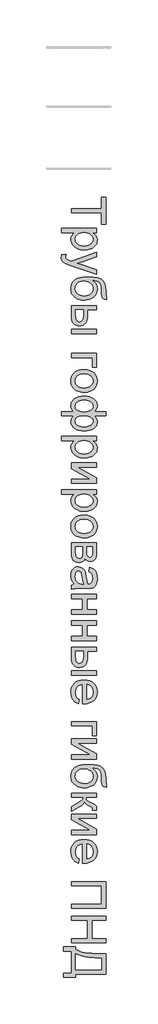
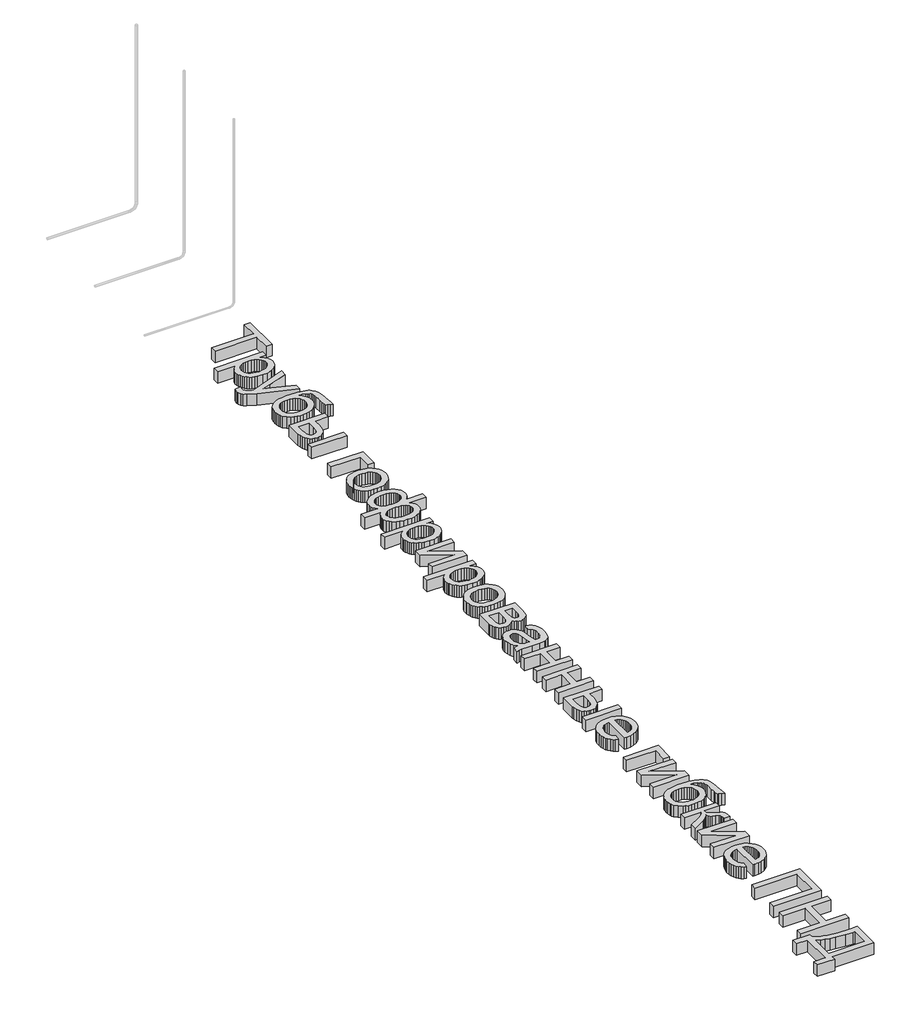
# One storey, part 29 of 33: 1 proxy.
"""IFC4 building model written with IfcOpenShell, lengths in millimetres."""

from ifc_helpers import new_model, si_unit, origin, origin_with_axes, place, context, project, spatial, polyline, outline, extrude, element, save

model = new_model("IFC4")

# Units and contexts
model_context = context("Model", 3, world=origin())
ifc_project = project(units=[si_unit("LENGTHUNIT", "METRE", prefix="MILLI")], contexts=[model_context])

# Site, building, storey
site = spatial("IfcSite", under=ifc_project)
building = spatial("IfcBuilding", under=site)
storey = spatial("IfcBuildingStorey", under=building, Name="Уровень 1", Elevation=0.0)

# Proxy
placement = place(None, origin())
element("IfcBuildingElementProxy", 1, Name="Надпись на модели 1", ObjectType="Надпись на модели 1", at=placement, inside=storey, context=model_context, shape_type="SweptSolid", body=[
    extrude(outline(polyline([(83124.4625724, -714.6440607), (83641.3856493, -714.6440607), (83641.3856493, -520.7979069), (83715.2318032, -520.7979069), (83715.2318032, -982.3363684), (83641.3856493, -982.3363684), (83641.3856493, -788.4902146), (83124.4625724, -788.4902146), (83124.4625724, -714.6440607)])), origin_with_axes(), (0.0, 0.0, 1.0), 150.0),
    extrude(outline(polyline([(82958.3087262, -1056.1825223), (83558.3087262, -1056.1825223), (83558.3087262, -1130.0286761), (83485.9048801, -1130.0286761), (83521.6200243, -1154.1152146), (83547.1308416, -1181.0863684), (83562.437332, -1212.5286761), (83567.5394955, -1250.0286761), (83565.7546397, -1275.7828829), (83560.4000724, -1299.96858), (83551.4757936, -1322.5857675), (83538.9818032, -1343.6344454), (83523.2426205, -1362.6548781), (83504.5827647, -1379.18733), (83483.0022359, -1393.2318011), (83458.5010339, -1404.7882915), (83404.0899762, -1420.2570415), (83344.702957, -1425.4132915), (83281.5479089, -1419.5899742), (83252.4718873, -1412.3108276), (83225.0635339, -1402.1200223), (83200.0394955, -1389.1572819), (83178.1164186, -1373.56233), (83159.2943032, -1355.3351665), (83143.5731493, -1334.4757915), (83131.1738104, -1312.007342), (83122.3171397, -1288.952955), (83117.0031373, -1265.3126305), (83115.2318032, -1241.0863684), (83119.9733897, -1207.1380511), (83134.1981493, -1176.8315607), (83155.6705051, -1150.8880511), (83182.1548801, -1130.0286761), (82958.3087262, -1130.0286761), (82958.3087262, -1056.1825223)]), holes=[polyline([(83337.9241109, -1130.0286761), (83302.3351686, -1132.0253708), (83271.7221878, -1138.015455), (83246.0851686, -1147.9989285), (83225.4241109, -1161.9757915), (83209.5226686, -1178.8012122), (83198.1644955, -1197.3303588), (83191.3495916, -1217.5632314), (83189.077957, -1239.49983), (83191.4307214, -1261.7519333), (83198.4890147, -1282.3543973), (83210.2528368, -1301.3072218), (83226.7221878, -1318.6104069), (83248.1314426, -1333.0289766), (83274.7149762, -1343.327955), (83306.4727887, -1349.507342), (83343.4048801, -1351.5671377), (83378.687332, -1349.5569213), (83409.2462262, -1343.5262723), (83435.0815628, -1333.4751906), (83456.1933416, -1319.4036761), (83472.5995916, -1302.5376906), (83484.3183416, -1284.1031954), (83491.3495916, -1264.1001906), (83493.6933416, -1242.5286761), (83491.2008537, -1221.0247699), (83483.7233897, -1200.7918973), (83471.2609498, -1181.8300583), (83453.8135339, -1164.1392531), (83431.6155171, -1149.2158756), (83404.9012743, -1138.5563204), (83373.6708056, -1132.1605872), (83337.9241109, -1130.0286761)])]), origin_with_axes(), (0.0, 0.0, 1.0), 150.0),
    extrude(outline(polyline([(82958.3087262, -1508.4902146), (83029.4144955, -1499.2594454), (83022.9241109, -1536.7594454), (83024.9613705, -1556.4830031), (83031.0731493, -1571.8075223), (83040.8267551, -1583.7426184), (83053.7894955, -1593.2979069), (83108.1644955, -1613.4902146), (83126.0491109, -1619.2594454), (83558.3087262, -1462.3363684), (83558.3087262, -1540.2209838), (83317.4433416, -1623.4421377), (83221.0971878, -1652.4325223), (83306.1933416, -1681.4229069), (83558.3087262, -1766.9517531), (83558.3087262, -1844.2594454), (83114.077957, -1693.24983), (83017.7318032, -1654.0190607), (82986.9745916, -1633.9349261), (82965.6644955, -1611.1825223), (82953.2245916, -1584.7522338), (82949.077957, -1553.6344454), (82951.3856493, -1532.2522338), (82958.3087262, -1508.4902146)])), origin_with_axes(), (0.0, 0.0, 1.0), 150.0),
    extrude(outline(polyline([(83724.4625724, -2210.0286761), (83724.4625724, -2274.6440607), (83689.3604089, -2267.6488684), (83666.8423801, -2255.6055992), (83653.5190628, -2238.9108877), (83646.0010339, -2217.9613684), (83642.5394955, -2183.8147338), (83641.3856493, -2127.5286761), (83637.1308416, -2052.4385319), (83631.812332, -2025.5349862), (83624.3664186, -2005.7257915), (83614.5767551, -1990.608604), (83602.2269955, -1977.78108), (83587.3171397, -1967.2432194), (83569.8471878, -1958.9950223), (83526.9745916, -1947.9433396), (83473.3568032, -1943.2017531), (83514.6068032, -1972.8952627), (83544.0298801, -2007.1680992), (83561.6620916, -2046.0563204), (83567.5394955, -2089.5959838), (83563.8030171, -2129.827354), (83552.593582, -2166.4349261), (83533.9111902, -2199.4187002), (83507.7558416, -2228.7786761), (83475.227296, -2252.8832434), (83437.4253128, -2270.1007915), (83394.3498921, -2280.4313204), (83346.0010339, -2283.87483), (83309.0148561, -2282.1665968), (83275.5082455, -2277.0418973), (83245.4812022, -2268.5007314), (83218.9337262, -2256.5430992), (83174.9613705, -2226.6693011), (83142.2750724, -2191.7113684), (83130.4436421, -2171.2666569), (83121.9926205, -2147.4325223), (83116.9220075, -2120.2089646), (83115.2318032, -2089.5959838), (83117.4087863, -2054.1828228), (83123.9397359, -2022.9433396), (83134.8246517, -1995.8775343), (83150.0635339, -1972.9854069), (83168.6963464, -1953.3925583), (83189.7630532, -1936.2245896), (83213.2636541, -1921.4815006), (83239.1981493, -1909.1632915), (83271.3841469, -1899.4457434), (83313.6392551, -1892.5046377), (83365.9634738, -1888.3399742), (83428.3568032, -1886.9517531), (83506.1107094, -1890.4538564), (83570.0455051, -1900.9601665), (83620.1611902, -1918.4706833), (83640.0368663, -1929.8525193), (83656.4577647, -1942.9854069), (83682.1714065, -1974.7657555), (83700.5382936, -2014.0731473), (83711.5584258, -2060.9075824), (83715.2318032, -2115.2690607), (83716.890457, -2197.4805992), (83719.6128128, -2205.5214646), (83724.4625724, -2210.0286761)]), holes=[polyline([(83348.3087262, -2210.0286761), (83378.8090267, -2208.0274742), (83406.4156974, -2202.0238684), (83431.1287383, -2192.0178588), (83452.9481493, -2178.0094454), (83470.774171, -2160.359205), (83483.5070436, -2139.4277146), (83491.1467671, -2115.2149742), (83493.6933416, -2087.7209838), (83491.0025363, -2059.0280752), (83482.9301205, -2033.8147338), (83469.476094, -2012.0809598), (83450.640457, -1993.8267531), (83427.3066229, -1979.3766329), (83400.3580051, -1969.0551184), (83369.7946037, -1962.8622098), (83335.6164186, -1960.7979069), (83302.1503729, -1963.0785559), (83272.8580051, -1969.9205031), (83247.7393152, -1981.3237482), (83226.7943032, -1997.2882915), (83210.2934017, -2016.5971857), (83198.5070436, -2038.0334838), (83191.4352287, -2061.5971857), (83189.077957, -2087.2882915), (83191.80482, -2113.3309598), (83199.9854089, -2136.7955031), (83213.6197238, -2157.6819213), (83232.7077647, -2175.9902146), (83256.2940027, -2190.8820415), (83283.4229089, -2201.5190607), (83314.0944835, -2207.9012723), (83348.3087262, -2210.0286761)])]), origin_with_axes(), (0.0, 0.0, 1.0), 150.0),
    extrude(outline(polyline([(83558.3087262, -2376.1825223), (83558.3087262, -2450.0286761), (83401.3856493, -2450.0286761), (83401.3856493, -2541.3267531), (83399.0734498, -2583.3384718), (83392.1368512, -2620.2390127), (83380.5758537, -2652.0283756), (83364.390457, -2678.7065607), (83344.1395556, -2699.8138324), (83320.3820436, -2714.890455), (83293.117921, -2723.9364285), (83262.3471878, -2726.9517531), (83234.8937623, -2724.4232074), (83209.5046397, -2716.8375704), (83186.17982, -2704.194842), (83164.9193032, -2686.4950223), (83147.2194835, -2663.242318), (83134.5767551, -2633.9409357), (83126.9911181, -2598.5908756), (83124.4625724, -2557.1921377), (83124.4625724, -2376.1825223), (83558.3087262, -2376.1825223)]), holes=[polyline([(83198.3087262, -2450.0286761), (83198.3087262, -2525.8940607), (83202.1849282, -2584.7041569), (83207.0301806, -2606.7263925), (83213.8135339, -2623.8267531), (83222.6521758, -2636.6362482), (83233.6632936, -2645.7858877), (83246.8468873, -2651.2756713), (83262.202957, -2653.1055992), (83286.3255532, -2647.6789165), (83307.6356493, -2631.3988684), (83316.343582, -2617.2687603), (83322.5635339, -2596.5851665), (83327.5394955, -2535.5575223), (83327.5394955, -2450.0286761), (83198.3087262, -2450.0286761)])]), origin_with_axes(), (0.0, 0.0, 1.0), 150.0),
    extrude(outline(polyline([(83558.3087262, -2782.3363684), (83558.3087262, -2856.1825223), (83124.4625724, -2856.1825223), (83124.4625724, -2782.3363684), (83558.3087262, -2782.3363684)])), origin_with_axes(), (0.0, 0.0, 1.0), 150.0),
    extrude(outline(polyline([(83558.3087262, -3197.7209838), (83558.3087262, -3437.7209838), (83484.4625724, -3437.7209838), (83484.4625724, -3271.5671377), (83124.4625724, -3271.5671377), (83124.4625724, -3197.7209838), (83558.3087262, -3197.7209838)])), origin_with_axes(), (0.0, 0.0, 1.0), 150.0),
    extrude(outline(polyline([(83341.3856493, -3474.6440607), (83397.5725484, -3478.6374502), (83445.9890147, -3490.6176184), (83486.6350484, -3510.5845656), (83519.5106493, -3538.5382915), (83540.5232695, -3566.6813204), (83555.5322839, -3597.7450223), (83564.5376926, -3631.7293973), (83567.5394955, -3668.6344454), (83563.8841469, -3709.3751305), (83552.9181012, -3746.2125704), (83534.6413585, -3779.1467651), (83509.0539186, -3808.1777146), (83477.0211662, -3831.8721256), (83439.4084859, -3848.796705), (83396.2158777, -3858.9514526), (83347.4433416, -3862.3363684), (83307.9150964, -3860.8399742), (83272.8399762, -3856.3507915), (83242.2179811, -3848.8688204), (83216.0491109, -3838.3940607), (83193.445445, -3825.0572218), (83173.5190628, -3808.9890127), (83156.2699642, -3790.1894333), (83141.6981493, -3768.6584838), (83130.1191229, -3745.2345055), (83121.8483897, -3720.7558396), (83116.8859498, -3695.2224862), (83115.2318032, -3668.6344454), (83118.8736301, -3627.2988083), (83129.7991109, -3590.1188204), (83148.0082455, -3557.0944814), (83173.5010339, -3528.2257915), (83205.8447839, -3504.7837843), (83244.6068032, -3488.0394934), (83289.7870916, -3477.9929189), (83341.3856493, -3474.6440607)]), holes=[polyline([(83341.5298801, -3548.4902146), (83305.71107, -3550.6266329), (83274.6969474, -3557.0358877), (83248.4875123, -3567.717979), (83227.0827647, -3582.6729069), (83210.4556613, -3600.8640127), (83198.5791589, -3621.2546377), (83191.4532575, -3643.8447819), (83189.077957, -3668.6344454), (83191.4667791, -3693.2979069), (83198.6332455, -3715.7979069), (83210.5773561, -3736.1344454), (83227.2991109, -3754.3075223), (83248.9156974, -3769.2624502), (83275.5443032, -3779.9445415), (83307.1849282, -3786.3537963), (83343.8375724, -3788.4902146), (83378.5205652, -3786.3402747), (83408.7233897, -3779.890455), (83434.446046, -3769.1407555), (83455.6885339, -3754.0911761), (83472.3156373, -3735.850491), (83484.1921397, -3715.5274742), (83491.3180412, -3693.1221256), (83493.6933416, -3668.6344454), (83491.3270556, -3643.8447819), (83484.2281974, -3621.2546377), (83472.3967671, -3600.8640127), (83455.8327647, -3582.6729069), (83434.4911181, -3567.717979), (83408.3267551, -3557.0358877), (83377.3396758, -3550.6266329), (83341.5298801, -3548.4902146)])]), origin_with_axes(), (0.0, 0.0, 1.0), 150.0),
    extrude(outline(polyline([(83715.2318032, -4194.6440607), (83715.2318032, -4268.4902146), (83516.6260339, -4268.4902146), (83539.0358897, -4290.9000704), (83554.9193032, -4315.43733), (83564.3844474, -4341.9938204), (83567.5394955, -4370.4613684), (83563.5280772, -4404.648568), (83551.4938224, -4435.0947819), (83531.4367311, -4461.8000103), (83503.3568032, -4484.7642531), (83469.1921397, -4503.2212843), (83430.8808416, -4516.4048781), (83388.4229089, -4524.3150343), (83341.8183416, -4526.9517531), (83293.4875123, -4524.1122098), (83250.0334859, -4515.59358), (83211.4562623, -4501.3958636), (83177.7558416, -4481.5190607), (83150.4015748, -4457.4235079), (83130.8628128, -4430.5695415), (83119.1395556, -4400.9571617), (83115.2318032, -4368.5863684), (83117.0346878, -4346.1945415), (83122.4433416, -4323.4421377), (83135.8928609, -4298.2378107), (83161.8183416, -4268.4902146), (82958.3087262, -4268.4902146), (82958.3087262, -4194.6440607), (83161.8183416, -4194.6440607), (83141.4818032, -4172.1801184), (83126.9144955, -4147.4805992), (83118.1524762, -4120.6176184), (83115.2318032, -4091.6632915), (83118.9637743, -4059.6801184), (83130.1596878, -4029.7882915), (83148.8195436, -4001.9878107), (83174.9433416, -3976.2786761), (83208.0172599, -3954.6981473), (83247.5274762, -3939.2834838), (83293.4739907, -3930.0346857), (83345.8568032, -3926.9517531), (83391.0461061, -3929.741717), (83432.4313224, -3938.1116088), (83470.0124522, -3952.0614285), (83503.7894955, -3971.5911761), (83531.6801205, -3995.835467), (83551.6019955, -4023.9289165), (83563.5551205, -4055.8715247), (83567.5394955, -4091.6632915), (83564.3844474, -4121.7534357), (83554.9193032, -4148.8507915), (83539.0358897, -4173.0995896), (83516.6260339, -4194.6440607), (83715.2318032, -4194.6440607)]), holes=[polyline([(83340.0875724, -4268.0575223), (83299.0403969, -4269.5944814), (83265.3219474, -4274.2053588), (83238.9322238, -4281.8901545), (83219.8712262, -4292.6488684), (83206.399171, -4305.7242891), (83196.7762743, -4320.359205), (83191.0025363, -4336.553616), (83189.077957, -4354.3075223), (83191.4442431, -4374.0355872), (83198.5431012, -4392.2582434), (83210.3745315, -4408.975491), (83226.9385339, -4424.18733), (83248.4875123, -4436.8390728), (83275.2738705, -4445.8760319), (83307.2976085, -4451.2982074), (83344.5587262, -4453.1055992), (83379.8051205, -4451.4379309), (83410.2558416, -4446.4349261), (83435.9108897, -4438.0965848), (83456.7702647, -4426.4229069), (83472.9241109, -4412.1350463), (83484.4625724, -4395.9541569), (83491.3856493, -4377.8802386), (83493.6933416, -4357.9132915), (83491.2909979, -4336.9412362), (83484.0839666, -4318.7366088), (83472.0722479, -4303.2994093), (83455.2558416, -4290.6296377), (83433.6437623, -4280.7543372), (83407.2450243, -4273.7005511), (83376.0596277, -4269.4682795), (83340.0875724, -4268.0575223)]), polyline([(83347.4433416, -4000.7979069), (83308.2756734, -4002.6458636), (83275.0034378, -4008.1897338), (83247.6266349, -4017.4295175), (83226.1452647, -4030.3652146), (83209.9283176, -4046.0412963), (83198.3447839, -4063.5022338), (83191.3946637, -4082.7480271), (83189.077957, -4103.7786761), (83191.3811421, -4125.2645535), (83198.2906974, -4143.8568011), (83209.8066229, -4159.5554189), (83225.9289186, -4172.3604069), (83246.6575844, -4182.2988083), (83271.9926205, -4189.3976665), (83301.9340267, -4193.6569814), (83336.4818032, -4195.0767531), (83373.3282575, -4193.584866), (83405.2618512, -4189.109205), (83432.2825844, -4181.6497699), (83454.390457, -4171.2065607), (83471.585469, -4157.7525343), (83483.8676205, -4141.2606473), (83491.2369113, -4121.7308997), (83493.6933416, -4099.1632915), (83491.2955051, -4078.3940607), (83484.1019955, -4059.6440607), (83472.1128128, -4042.9132915), (83455.327957, -4028.2017531), (83434.1981493, -4016.2125704), (83409.1741109, -4007.6488684), (83380.2558416, -4002.5106473), (83347.4433416, -4000.7979069)])]), origin_with_axes(), (0.0, 0.0, 1.0), 150.0),
    extrude(outline(polyline([(82958.3087262, -4619.2594454), (83558.3087262, -4619.2594454), (83558.3087262, -4693.1055992), (83485.9048801, -4693.1055992), (83521.6200243, -4717.1921377), (83547.1308416, -4744.1632915), (83562.437332, -4775.6055992), (83567.5394955, -4813.1055992), (83565.7546397, -4838.8598059), (83560.4000724, -4863.0455031), (83551.4757936, -4885.6626906), (83538.9818032, -4906.7113684), (83523.2426205, -4925.7318011), (83504.5827647, -4942.2642531), (83483.0022359, -4956.3087242), (83458.5010339, -4967.8652146), (83404.0899762, -4983.3339646), (83344.702957, -4988.4902146), (83281.5479089, -4982.6668973), (83252.4718873, -4975.3877506), (83225.0635339, -4965.1969454), (83200.0394955, -4952.234205), (83178.1164186, -4936.6392531), (83159.2943032, -4918.4120896), (83143.5731493, -4897.5527146), (83131.1738104, -4875.0842651), (83122.3171397, -4852.0298781), (83117.0031373, -4828.3895535), (83115.2318032, -4804.1632915), (83119.9733897, -4770.2149742), (83134.1981493, -4739.9084838), (83155.6705051, -4713.9649742), (83182.1548801, -4693.1055992), (82958.3087262, -4693.1055992), (82958.3087262, -4619.2594454)]), holes=[polyline([(83337.9241109, -4693.1055992), (83302.3351686, -4695.1022939), (83271.7221878, -4701.0923781), (83246.0851686, -4711.0758516), (83225.4241109, -4725.0527146), (83209.5226686, -4741.8781353), (83198.1644955, -4760.4072819), (83191.3495916, -4780.6401545), (83189.077957, -4802.5767531), (83191.4307214, -4824.8288564), (83198.4890147, -4845.4313204), (83210.2528368, -4864.3841449), (83226.7221878, -4881.68733), (83248.1314426, -4896.1058997), (83274.7149762, -4906.4048781), (83306.4727887, -4912.5842651), (83343.4048801, -4914.6440607), (83378.687332, -4912.6338444), (83409.2462262, -4906.6031954), (83435.0815628, -4896.5521136), (83456.1933416, -4882.4805992), (83472.5995916, -4865.6146136), (83484.3183416, -4847.1801184), (83491.3495916, -4827.1771136), (83493.6933416, -4805.6055992), (83491.2008537, -4784.101693), (83483.7233897, -4763.8688204), (83471.2609498, -4744.9069814), (83453.8135339, -4727.2161761), (83431.6155171, -4712.2927987), (83404.9012743, -4701.6332434), (83373.6708056, -4695.2375103), (83337.9241109, -4693.1055992)])]), origin_with_axes(), (0.0, 0.0, 1.0), 150.0),
    extrude(outline(polyline([(83558.3087262, -5071.5671377), (83558.3087262, -5145.4132915), (83227.4433416, -5145.4132915), (83558.3087262, -5326.8555992), (83558.3087262, -5422.3363684), (83124.4625724, -5422.3363684), (83124.4625724, -5348.4902146), (83453.3087262, -5348.4902146), (83124.4625724, -5168.2017531), (83124.4625724, -5071.5671377), (83558.3087262, -5071.5671377)])), origin_with_axes(), (0.0, 0.0, 1.0), 150.0),
    extrude(outline(polyline([(82958.3087262, -5533.1055992), (83558.3087262, -5533.1055992), (83558.3087262, -5606.9517531), (83485.9048801, -5606.9517531), (83521.6200243, -5631.0382915), (83547.1308416, -5658.0094454), (83562.437332, -5689.4517531), (83567.5394955, -5726.9517531), (83565.7546397, -5752.7059598), (83560.4000724, -5776.8916569), (83551.4757936, -5799.5088444), (83538.9818032, -5820.5575223), (83523.2426205, -5839.577955), (83504.5827647, -5856.1104069), (83483.0022359, -5870.1548781), (83458.5010339, -5881.7113684), (83404.0899762, -5897.1801184), (83344.702957, -5902.3363684), (83281.5479089, -5896.5130511), (83252.4718873, -5889.2339045), (83225.0635339, -5879.0430992), (83200.0394955, -5866.0803588), (83178.1164186, -5850.4854069), (83159.2943032, -5832.2582434), (83143.5731493, -5811.3988684), (83131.1738104, -5788.9304189), (83122.3171397, -5765.8760319), (83117.0031373, -5742.2357074), (83115.2318032, -5718.0094454), (83119.9733897, -5684.0611281), (83134.1981493, -5653.7546377), (83155.6705051, -5627.8111281), (83182.1548801, -5606.9517531), (82958.3087262, -5606.9517531), (82958.3087262, -5533.1055992)]), holes=[polyline([(83337.9241109, -5606.9517531), (83302.3351686, -5608.9484478), (83271.7221878, -5614.9385319), (83246.0851686, -5624.9220055), (83225.4241109, -5638.8988684), (83209.5226686, -5655.7242891), (83198.1644955, -5674.2534357), (83191.3495916, -5694.4863083), (83189.077957, -5716.4229069), (83191.4307214, -5738.6750103), (83198.4890147, -5759.2774742), (83210.2528368, -5778.2302987), (83226.7221878, -5795.5334838), (83248.1314426, -5809.9520535), (83274.7149762, -5820.2510319), (83306.4727887, -5826.4304189), (83343.4048801, -5828.4902146), (83378.687332, -5826.4799982), (83409.2462262, -5820.4493492), (83435.0815628, -5810.3982675), (83456.1933416, -5796.3267531), (83472.5995916, -5779.4607675), (83484.3183416, -5761.0262723), (83491.3495916, -5741.0232675), (83493.6933416, -5719.4517531), (83491.2008537, -5697.9478468), (83483.7233897, -5677.7149742), (83471.2609498, -5658.7531353), (83453.8135339, -5641.06233), (83431.6155171, -5626.1389526), (83404.9012743, -5615.4793973), (83373.6708056, -5609.0836641), (83337.9241109, -5606.9517531)])]), origin_with_axes(), (0.0, 0.0, 1.0), 150.0),
    extrude(outline(polyline([(83341.3856493, -5966.9517531), (83397.5725484, -5970.9451425), (83445.9890147, -5982.9253107), (83486.6350484, -6002.8922579), (83519.5106493, -6030.8459838), (83540.5232695, -6058.9890127), (83555.5322839, -6090.0527146), (83564.5376926, -6124.0370896), (83567.5394955, -6160.9421377), (83563.8841469, -6201.6828228), (83552.9181012, -6238.5202627), (83534.6413585, -6271.4544574), (83509.0539186, -6300.4854069), (83477.0211662, -6324.179818), (83439.4084859, -6341.1043973), (83396.2158777, -6351.2591449), (83347.4433416, -6354.6440607), (83307.9150964, -6353.1476665), (83272.8399762, -6348.6584838), (83242.2179811, -6341.1765127), (83216.0491109, -6330.7017531), (83193.445445, -6317.3649141), (83173.5190628, -6301.296705), (83156.2699642, -6282.4971256), (83141.6981493, -6260.9661761), (83130.1191229, -6237.5421978), (83121.8483897, -6213.0635319), (83116.8859498, -6187.5301785), (83115.2318032, -6160.9421377), (83118.8736301, -6119.6065006), (83129.7991109, -6082.4265127), (83148.0082455, -6049.4021737), (83173.5010339, -6020.5334838), (83205.8447839, -5997.0914766), (83244.6068032, -5980.3471857), (83289.7870916, -5970.3006112), (83341.3856493, -5966.9517531)]), holes=[polyline([(83341.5298801, -6040.7979069), (83305.71107, -6042.9343252), (83274.6969474, -6049.34358), (83248.4875123, -6060.0256713), (83227.0827647, -6074.9805992), (83210.4556613, -6093.171705), (83198.5791589, -6113.56233), (83191.4532575, -6136.1524742), (83189.077957, -6160.9421377), (83191.4667791, -6185.6055992), (83198.6332455, -6208.1055992), (83210.5773561, -6228.4421377), (83227.2991109, -6246.6152146), (83248.9156974, -6261.5701425), (83275.5443032, -6272.2522338), (83307.1849282, -6278.6614886), (83343.8375724, -6280.7979069), (83378.5205652, -6278.647967), (83408.7233897, -6272.1981473), (83434.446046, -6261.4484478), (83455.6885339, -6246.3988684), (83472.3156373, -6228.1581833), (83484.1921397, -6207.8351665), (83491.3180412, -6185.429818), (83493.6933416, -6160.9421377), (83491.3270556, -6136.1524742), (83484.2281974, -6113.56233), (83472.3967671, -6093.171705), (83455.8327647, -6074.9805992), (83434.4911181, -6060.0256713), (83408.3267551, -6049.34358), (83377.3396758, -6042.9343252), (83341.5298801, -6040.7979069)])]), origin_with_axes(), (0.0, 0.0, 1.0), 150.0),
    extrude(outline(polyline([(83558.3087262, -6437.7209838), (83558.3087262, -6600.4132915), (83555.8387743, -6652.7149742), (83548.4289186, -6689.6200223), (83534.4385339, -6716.7714646), (83512.2269955, -6739.81233), (83483.2906974, -6755.5515127), (83449.1260339, -6760.7979069), (83421.5959859, -6757.62483), (83397.8519955, -6748.1055992), (83377.7858897, -6732.2041569), (83361.2894955, -6709.8844454), (83345.9469474, -6737.2161761), (83321.265457, -6759.49983), (83289.1921397, -6774.3195415), (83251.6741109, -6779.2594454), (83221.4487503, -6775.1578829), (83195.3880532, -6766.7474261), (83173.4920195, -6754.0280752), (83155.7606493, -6736.99983), (83142.0677407, -6715.6356473), (83132.2870916, -6689.9084838), (83126.4187022, -6659.8183396), (83124.4625724, -6625.3652146), (83124.4625724, -6437.7209838), (83558.3087262, -6437.7209838)]), holes=[polyline([(83392.1548801, -6511.5671377), (83392.1548801, -6584.5479069), (83395.9048801, -6644.7642531), (83401.5298801, -6660.2690607), (83410.9048801, -6674.0430992), (83423.3087262, -6683.7245896), (83438.0202647, -6686.9517531), (83450.0184618, -6685.5364886), (83460.0515147, -6681.2906954), (83468.1194234, -6674.2143732), (83474.2221878, -6664.3075223), (83481.9024762, -6633.6224261), (83484.4625724, -6586.8555992), (83484.4625724, -6511.5671377), (83392.1548801, -6511.5671377)]), polyline([(83198.3087262, -6511.5671377), (83198.3087262, -6602.1440607), (83201.6440628, -6651.5070415), (83211.6500724, -6682.4805992), (83219.5331854, -6692.0809598), (83229.8411782, -6699.1031954), (83257.7318032, -6705.4132915), (83276.2113705, -6702.2582434), (83293.2846878, -6692.7930992), (83306.6440628, -6678.2618492), (83313.9818032, -6659.9084838), (83318.3087262, -6594.9325223), (83318.3087262, -6511.5671377), (83198.3087262, -6511.5671377)])]), origin_with_axes(), (0.0, 0.0, 1.0), 150.0),
    extrude(outline(polyline([(83179.8471878, -7148.4902146), (83149.5947839, -7113.2077627), (83129.7991109, -7076.8796377), (83118.8736301, -7038.6765127), (83115.2318032, -6997.7690607), (83117.422308, -6964.8889526), (83123.9938224, -6936.0563204), (83134.9463464, -6911.2711641), (83150.2798801, -6890.5334838), (83169.0208657, -6874.1587843), (83190.1957455, -6862.4625704), (83213.8045195, -6855.444842), (83239.8471878, -6853.1055992), (83270.4601686, -6856.6392531), (83298.2606493, -6867.2402146), (83322.0587262, -6883.5923781), (83340.6644955, -6904.3796377), (83354.7269955, -6928.8087242), (83364.8952647, -6956.0863684), (83376.0010339, -7019.9805992), (83387.6837262, -7095.4854069), (83401.3856493, -7148.0575223), (83417.827957, -7148.4902146), (83450.7846878, -7143.40608), (83462.9902166, -7137.0509117), (83472.3471878, -7128.1536761), (83481.6861301, -7112.7750704), (83488.3568032, -7094.0430992), (83493.6933416, -7046.5190607), (83490.1416589, -7002.5286761), (83479.4866109, -6971.8075223), (83459.781082, -6950.8580031), (83429.077957, -6936.1825223), (83438.3087262, -6862.3363684), (83478.6933416, -6875.1548781), (83510.4241109, -6894.2834838), (83534.6909378, -6921.5070415), (83552.6837262, -6958.6104069), (83563.8255532, -7003.9890127), (83567.5394955, -7056.0382915), (83564.2582455, -7105.9601665), (83554.4144955, -7145.5334838), (83539.6128128, -7175.3712242), (83521.4577647, -7196.0863684), (83499.0118512, -7209.8243492), (83471.3375724, -7218.7305992), (83406.7221878, -7222.3363684), (83314.8471878, -7222.3363684), (83186.5539186, -7226.0863684), (83154.8411782, -7231.6392531), (83124.4625724, -7240.7979069), (83124.4625724, -7166.9517531), (83150.1356493, -7155.12483), (83179.8471878, -7148.4902146)]), holes=[polyline([(83327.5394955, -7148.4902146), (83315.2438224, -7098.87483), (83304.8952647, -7029.3555992), (83292.9241109, -6965.8219454), (83284.7390147, -6949.2894934), (83273.452957, -6937.0479069), (83259.9313224, -6929.4757915), (83245.0394955, -6926.9517531), (83223.0803609, -6932.4505511), (83205.0875724, -6948.9469454), (83193.0803609, -6976.0803588), (83189.077957, -7013.4902146), (83193.4950243, -7053.1536761), (83206.7462262, -7088.2017531), (83226.2714666, -7116.6152146), (83249.5106493, -7136.37483), (83273.452957, -7145.1368492), (83306.6260339, -7148.0575223), (83327.5394955, -7148.4902146)])]), origin_with_axes(), (0.0, 0.0, 1.0), 150.0),
    extrude(outline(polyline([(83558.3087262, -7323.87483), (83558.3087262, -7397.7209838), (83392.1548801, -7397.7209838), (83392.1548801, -7591.5671377), (83558.3087262, -7591.5671377), (83558.3087262, -7665.4132915), (83124.4625724, -7665.4132915), (83124.4625724, -7591.5671377), (83318.3087262, -7591.5671377), (83318.3087262, -7397.7209838), (83124.4625724, -7397.7209838), (83124.4625724, -7323.87483), (83558.3087262, -7323.87483)])), origin_with_axes(), (0.0, 0.0, 1.0), 150.0),
    extrude(outline(polyline([(83558.3087262, -7776.1825223), (83558.3087262, -7850.0286761), (83392.1548801, -7850.0286761), (83392.1548801, -8043.87483), (83558.3087262, -8043.87483), (83558.3087262, -8117.7209838), (83124.4625724, -8117.7209838), (83124.4625724, -8043.87483), (83318.3087262, -8043.87483), (83318.3087262, -7850.0286761), (83124.4625724, -7850.0286761), (83124.4625724, -7776.1825223), (83558.3087262, -7776.1825223)])), origin_with_axes(), (0.0, 0.0, 1.0), 150.0),
    extrude(outline(polyline([(83558.3087262, -8228.4902146), (83558.3087262, -8302.3363684), (83401.3856493, -8302.3363684), (83401.3856493, -8393.6344454), (83399.0734498, -8435.6461641), (83392.1368512, -8472.546705), (83380.5758537, -8504.336068), (83364.390457, -8531.0142531), (83344.1395556, -8552.1215247), (83320.3820436, -8567.1981473), (83293.117921, -8576.2441208), (83262.3471878, -8579.2594454), (83234.8937623, -8576.7308997), (83209.5046397, -8569.1452627), (83186.17982, -8556.5025343), (83164.9193032, -8538.8027146), (83147.2194835, -8515.5500103), (83134.5767551, -8486.2486281), (83126.9911181, -8450.898568), (83124.4625724, -8409.49983), (83124.4625724, -8228.4902146), (83558.3087262, -8228.4902146)]), holes=[polyline([(83198.3087262, -8302.3363684), (83198.3087262, -8378.2017531), (83202.1849282, -8437.0118492), (83207.0301806, -8459.0340848), (83213.8135339, -8476.1344454), (83222.6521758, -8488.9439406), (83233.6632936, -8498.09358), (83246.8468873, -8503.5833636), (83262.202957, -8505.4132915), (83286.3255532, -8499.9866088), (83307.6356493, -8483.7065607), (83316.343582, -8469.5764526), (83322.5635339, -8448.8928588), (83327.5394955, -8387.8652146), (83327.5394955, -8302.3363684), (83198.3087262, -8302.3363684)])]), origin_with_axes(), (0.0, 0.0, 1.0), 150.0),
    extrude(outline(polyline([(83558.3087262, -8634.6440607), (83558.3087262, -8708.4902146), (83124.4625724, -8708.4902146), (83124.4625724, -8634.6440607), (83558.3087262, -8634.6440607)])), origin_with_axes(), (0.0, 0.0, 1.0), 150.0),
    extrude(outline(polyline([(83253.6933416, -9123.0094454), (83244.4625724, -9195.4132915), (83215.4631734, -9184.3120295), (83189.9072839, -9169.3255511), (83167.7949041, -9150.4538564), (83149.1260339, -9127.6969454), (83134.297308, -9101.289193), (83123.7053609, -9071.4649742), (83117.3501926, -9038.2242891), (83115.2318032, -9001.5671377), (83118.8871517, -8955.7468252), (83129.8531974, -8914.9205031), (83148.1299402, -8879.0881713), (83173.7173801, -8848.24983), (83205.9033777, -8823.4511521), (83243.9757936, -8805.7378107), (83287.9346277, -8795.1098059), (83337.7798801, -8791.5671377), (83389.3153368, -8795.1458636), (83434.7390147, -8805.8820415), (83474.0509137, -8823.7756713), (83507.2510339, -8848.8267531), (83533.6272359, -8879.5839646), (83552.4673801, -8914.5959838), (83563.7714666, -8953.8628107), (83567.5394955, -8997.3844454), (83563.7804811, -9039.5043372), (83552.5034378, -9077.5947819), (83533.7083657, -9111.6557795), (83507.3952647, -9141.68733), (83474.2672599, -9166.2020535), (83435.0274762, -9183.7125704), (83389.6759137, -9194.2188805), (83338.2125724, -9197.7209838), (83318.3087262, -9197.2882915), (83318.3087262, -8865.4132915), (83288.8405772, -8869.6906353), (83263.0322839, -8878.1957434), (83240.8838464, -8890.928616), (83222.3952647, -8907.8892531), (83207.8189426, -8928.1401545), (83197.4072839, -8950.7438204), (83191.1602887, -8975.7002506), (83189.077957, -9003.0094454), (83192.9361301, -9042.31233), (83204.5106493, -9075.4132915), (83224.5226686, -9102.31233), (83253.6933416, -9123.0094454)]), holes=[polyline([(83392.1548801, -8865.4132915), (83392.1548801, -9123.87483), (83431.1693032, -9113.8868492), (83446.5118512, -9105.296104), (83459.077957, -9094.3075223), (83474.2221878, -9074.1693011), (83485.0394955, -9051.2546377), (83491.5298801, -9025.5635319), (83493.6933416, -8997.0959838), (83491.9670796, -8971.1299381), (83486.7882936, -8947.3183396), (83478.1569835, -8925.6611881), (83466.0731493, -8906.1584838), (83451.0956854, -8889.7927987), (83433.7834859, -8877.546705), (83414.1365508, -8869.4202026), (83392.1548801, -8865.4132915)])]), origin_with_axes(), (0.0, 0.0, 1.0), 150.0),
    extrude(outline(polyline([(83558.3087262, -9502.3363684), (83558.3087262, -9742.3363684), (83484.4625724, -9742.3363684), (83484.4625724, -9576.1825223), (83124.4625724, -9576.1825223), (83124.4625724, -9502.3363684), (83558.3087262, -9502.3363684)])), origin_with_axes(), (0.0, 0.0, 1.0), 150.0),
    extrude(outline(polyline([(83558.3087262, -9797.7209838), (83558.3087262, -9871.5671377), (83227.4433416, -9871.5671377), (83558.3087262, -10053.0094454), (83558.3087262, -10148.4902146), (83124.4625724, -10148.4902146), (83124.4625724, -10074.6440607), (83453.3087262, -10074.6440607), (83124.4625724, -9894.3555992), (83124.4625724, -9797.7209838), (83558.3087262, -9797.7209838)])), origin_with_axes(), (0.0, 0.0, 1.0), 150.0),
    extrude(outline(polyline([(83724.4625724, -10563.87483), (83724.4625724, -10628.4902146), (83689.3604089, -10621.4950223), (83666.8423801, -10609.4517531), (83653.5190628, -10592.7570415), (83646.0010339, -10571.8075223), (83642.5394955, -10537.6608877), (83641.3856493, -10481.37483), (83637.1308416, -10406.2846857), (83631.812332, -10379.3811401), (83624.3664186, -10359.5719454), (83614.5767551, -10344.4547579), (83602.2269955, -10331.6272338), (83587.3171397, -10321.0893732), (83569.8471878, -10312.8411761), (83526.9745916, -10301.7894934), (83473.3568032, -10297.0479069), (83514.6068032, -10326.7414165), (83544.0298801, -10361.0142531), (83561.6620916, -10399.9024742), (83567.5394955, -10443.4421377), (83563.8030171, -10483.6735079), (83552.593582, -10520.28108), (83533.9111902, -10553.264854), (83507.7558416, -10582.62483), (83475.227296, -10606.7293973), (83437.4253128, -10623.9469454), (83394.3498921, -10634.2774742), (83346.0010339, -10637.7209838), (83309.0148561, -10636.0127506), (83275.5082455, -10630.8880511), (83245.4812022, -10622.3468853), (83218.9337262, -10610.3892531), (83174.9613705, -10580.515455), (83142.2750724, -10545.5575223), (83130.4436421, -10525.1128107), (83121.9926205, -10501.2786761), (83116.9220075, -10474.0551184), (83115.2318032, -10443.4421377), (83117.4087863, -10408.0289766), (83123.9397359, -10376.7894934), (83134.8246517, -10349.7236881), (83150.0635339, -10326.8315607), (83168.6963464, -10307.2387122), (83189.7630532, -10290.0707434), (83213.2636541, -10275.3276545), (83239.1981493, -10263.0094454), (83271.3841469, -10253.2918973), (83313.6392551, -10246.3507915), (83365.9634738, -10242.1861281), (83428.3568032, -10240.7979069), (83506.1107094, -10244.3000103), (83570.0455051, -10254.8063204), (83620.1611902, -10272.3168372), (83640.0368663, -10283.6986731), (83656.4577647, -10296.8315607), (83682.1714065, -10328.6119093), (83700.5382936, -10367.9193011), (83711.5584258, -10414.7537362), (83715.2318032, -10469.1152146), (83716.890457, -10551.3267531), (83719.6128128, -10559.3676184), (83724.4625724, -10563.87483)]), holes=[polyline([(83348.3087262, -10563.87483), (83378.8090267, -10561.8736281), (83406.4156974, -10555.8700223), (83431.1287383, -10545.8640127), (83452.9481493, -10531.8555992), (83470.774171, -10514.2053588), (83483.5070436, -10493.2738684), (83491.1467671, -10469.0611281), (83493.6933416, -10441.5671377), (83491.0025363, -10412.874229), (83482.9301205, -10387.6608877), (83469.476094, -10365.9271136), (83450.640457, -10347.6729069), (83427.3066229, -10333.2227867), (83400.3580051, -10322.9012723), (83369.7946037, -10316.7083636), (83335.6164186, -10314.6440607), (83302.1503729, -10316.9247098), (83272.8580051, -10323.7666569), (83247.7393152, -10335.1699021), (83226.7943032, -10351.1344454), (83210.2934017, -10370.4433396), (83198.5070436, -10391.8796377), (83191.4352287, -10415.4433396), (83189.077957, -10441.1344454), (83191.80482, -10467.1771136), (83199.9854089, -10490.6416569), (83213.6197238, -10511.5280752), (83232.7077647, -10529.8363684), (83256.2940027, -10544.7281954), (83283.4229089, -10555.3652146), (83314.0944835, -10561.7474261), (83348.3087262, -10563.87483)])]), origin_with_axes(), (0.0, 0.0, 1.0), 150.0),
    extrude(outline(polyline([(83558.3087262, -10730.0286761), (83558.3087262, -10803.87483), (83373.6933416, -10803.87483), (83377.0106493, -10833.9108877), (83386.9625724, -10853.3459838), (83412.9241109, -10870.5455031), (83464.2702647, -10893.87483), (83506.2594474, -10912.6789165), (83530.9769955, -10927.5527146), (83544.4445436, -10941.4349261), (83552.6837262, -10957.2642531), (83556.9024762, -10979.1693011), (83558.3087262, -11011.2786761), (83558.3087262, -11025.4132915), (83484.0298801, -11025.4132915), (83484.4625724, -11005.5094454), (83482.515457, -10982.4325223), (83476.6741109, -10969.4517531), (83460.4120916, -10958.9229069), (83428.0683416, -10944.0671377), (83395.6705051, -10928.4721857), (83375.4962262, -10914.2834838), (83362.0286782, -10897.1019934), (83349.7510339, -10872.5286761), (83339.3574041, -10895.9301184), (83321.0130532, -10919.1152146), (83294.7179811, -10942.0839646), (83260.4721878, -10964.8363684), (83124.4625724, -11043.87483), (83124.4625724, -10959.9325223), (83257.5875724, -10882.4805992), (83293.0142551, -10861.5671377), (83313.9096878, -10843.5382915), (83324.1320436, -10825.3291569), (83327.5394955, -10803.87483), (83124.4625724, -10803.87483), (83124.4625724, -10730.0286761), (83558.3087262, -10730.0286761)])), origin_with_axes(), (0.0, 0.0, 1.0), 150.0),
    extrude(outline(polyline([(83558.3087262, -11090.0286761), (83558.3087262, -11163.87483), (83227.4433416, -11163.87483), (83558.3087262, -11345.3171377), (83558.3087262, -11440.7979069), (83124.4625724, -11440.7979069), (83124.4625724, -11366.9517531), (83453.3087262, -11366.9517531), (83124.4625724, -11186.6632915), (83124.4625724, -11090.0286761), (83558.3087262, -11090.0286761)])), origin_with_axes(), (0.0, 0.0, 1.0), 150.0),
    extrude(outline(polyline([(83253.6933416, -11855.3171377), (83244.4625724, -11927.7209838), (83215.4631734, -11916.6197218), (83189.9072839, -11901.6332434), (83167.7949041, -11882.7615487), (83149.1260339, -11860.0046377), (83134.297308, -11833.5968853), (83123.7053609, -11803.7726665), (83117.3501926, -11770.5319814), (83115.2318032, -11733.87483), (83118.8871517, -11688.0545175), (83129.8531974, -11647.2281954), (83148.1299402, -11611.3958636), (83173.7173801, -11580.5575223), (83205.9033777, -11555.7588444), (83243.9757936, -11538.0455031), (83287.9346277, -11527.4174982), (83337.7798801, -11523.87483), (83389.3153368, -11527.4535559), (83434.7390147, -11538.1897338), (83474.0509137, -11556.0833636), (83507.2510339, -11581.1344454), (83533.6272359, -11611.8916569), (83552.4673801, -11646.9036761), (83563.7714666, -11686.1705031), (83567.5394955, -11729.6921377), (83563.7804811, -11771.8120295), (83552.5034378, -11809.9024742), (83533.7083657, -11843.9634718), (83507.3952647, -11873.9950223), (83474.2672599, -11898.5097458), (83435.0274762, -11916.0202627), (83389.6759137, -11926.5265728), (83338.2125724, -11930.0286761), (83318.3087262, -11929.5959838), (83318.3087262, -11597.7209838), (83288.8405772, -11601.9983276), (83263.0322839, -11610.5034357), (83240.8838464, -11623.2363083), (83222.3952647, -11640.1969454), (83207.8189426, -11660.4478468), (83197.4072839, -11683.0515127), (83191.1602887, -11708.007943), (83189.077957, -11735.3171377), (83192.9361301, -11774.6200223), (83204.5106493, -11807.7209838), (83224.5226686, -11834.6200223), (83253.6933416, -11855.3171377)]), holes=[polyline([(83392.1548801, -11597.7209838), (83392.1548801, -11856.1825223), (83431.1693032, -11846.1945415), (83446.5118512, -11837.6037963), (83459.077957, -11826.6152146), (83474.2221878, -11806.4769934), (83485.0394955, -11783.56233), (83491.5298801, -11757.8712242), (83493.6933416, -11729.4036761), (83491.9670796, -11703.4376305), (83486.7882936, -11679.6260319), (83478.1569835, -11657.9688805), (83466.0731493, -11638.4661761), (83451.0956854, -11622.100491), (83433.7834859, -11609.8543973), (83414.1365508, -11601.7278949), (83392.1548801, -11597.7209838)])]), origin_with_axes(), (0.0, 0.0, 1.0), 150.0),
    extrude(outline(polyline([(83715.2318032, -12243.87483), (83715.2318032, -12705.4132915), (83124.4625724, -12705.4132915), (83124.4625724, -12631.5671377), (83641.3856493, -12631.5671377), (83641.3856493, -12317.7209838), (83124.4625724, -12317.7209838), (83124.4625724, -12243.87483), (83715.2318032, -12243.87483)])), origin_with_axes(), (0.0, 0.0, 1.0), 150.0),
    extrude(outline(polyline([(83124.4625724, -12834.6440607), (83715.2318032, -12834.6440607), (83715.2318032, -12908.4902146), (83475.2318032, -12908.4902146), (83475.2318032, -13222.3363684), (83715.2318032, -13222.3363684), (83715.2318032, -13296.1825223), (83124.4625724, -13296.1825223), (83124.4625724, -13222.3363684), (83401.3856493, -13222.3363684), (83401.3856493, -12908.4902146), (83124.4625724, -12908.4902146), (83124.4625724, -12834.6440607)])), origin_with_axes(), (0.0, 0.0, 1.0), 150.0),
    extrude(outline(polyline([(83715.2318032, -13480.7979069), (83715.2318032, -13831.5671377), (83198.3087262, -13831.5671377), (83198.3087262, -13886.9517531), (82986.0010339, -13886.9517531), (82986.0010339, -13813.1055992), (83124.4625724, -13813.1055992), (83124.4625724, -13434.6440607), (82986.0010339, -13434.6440607), (82986.0010339, -13360.7979069), (83198.3087262, -13360.7979069), (83198.3087262, -13406.9517531), (83228.3966169, -13424.2594454), (83265.2949041, -13439.2594454), (83309.003588, -13451.9517531), (83359.5226686, -13462.3363684), (83480.9920195, -13476.1825223), (83629.702957, -13480.7979069), (83715.2318032, -13480.7979069)]), holes=[polyline([(83641.3856493, -13757.7209838), (83641.3856493, -13554.6440607), (83611.6741109, -13554.6440607), (83524.0899762, -13550.8940607), (83409.3183416, -13539.6440607), (83347.9932214, -13530.3411761), (83292.3832455, -13517.4325223), (83242.4884137, -13500.9180992), (83198.3087262, -13480.7979069), (83198.3087262, -13757.7209838), (83641.3856493, -13757.7209838)])]), origin_with_axes(), (0.0, 0.0, 1.0), 150.0),
])

save(model, "model.ifc")
